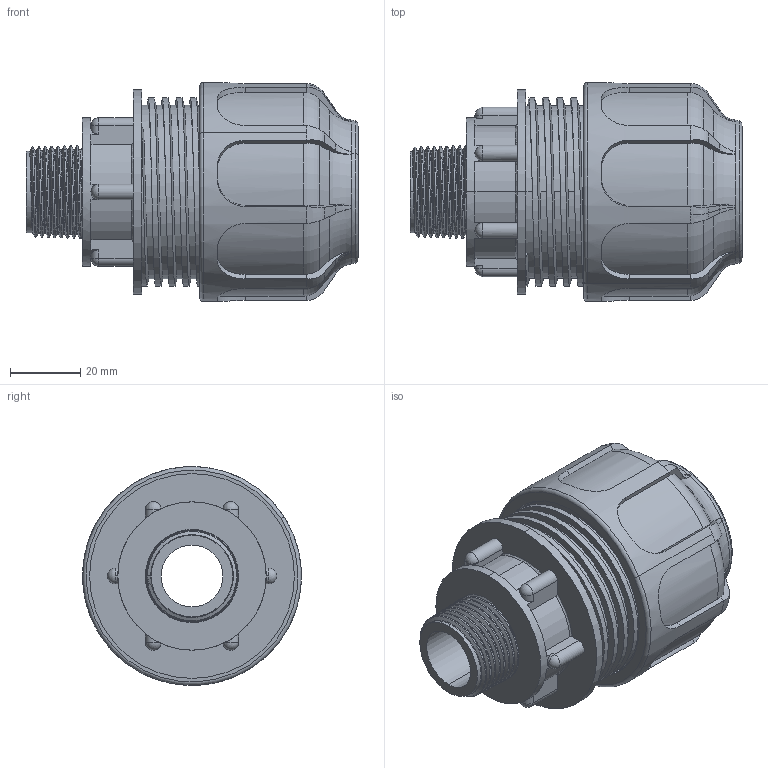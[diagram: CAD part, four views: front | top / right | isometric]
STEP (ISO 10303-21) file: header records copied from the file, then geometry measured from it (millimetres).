
FILE_DESCRIPTION (( 'STEP AP203' ), '1' );
FILE_NAME ('02004.0525.STEP', '2017-05-22T13:56:37', ( '' ), ( '' ), 'SwSTEP 2.0', 'SolidWorks 2011', '' );
FILE_SCHEMA (( 'CONFIG_CONTROL_DESIGN' ));
Length unit declared in the file: millimetre
Products named in the file (3): 02004.0525; 01711_2525; 01770_0525
Assembly tree (2 placements, depth 2):
  02004.0525
    01711_2525
    01770_0525
Bounding box: 94.52 x 62.3 x 62.3 mm (x, y, z)
Volume: 72901.2 mm3; surface area: 59551.8 mm2
Topology: 2 solids, 2 shells, 440 faces, 1446 edges, 1008 vertices
Faces by surface type: cylinder 137, plane 131, torus 110, cone 45, bspline 11, sphere 6
Entity records: 28605 total; most frequent: CARTESIAN_POINT 16765, ORIENTED_EDGE 2870, DIRECTION 1938, EDGE_CURVE 1435, VERTEX_POINT 1006, AXIS2_PLACEMENT_3D 781, B_SPLINE_CURVE_WITH_KNOTS 641, EDGE_LOOP 451
